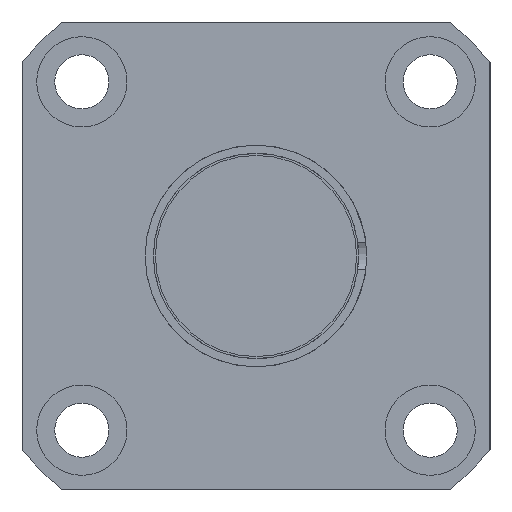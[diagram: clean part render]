
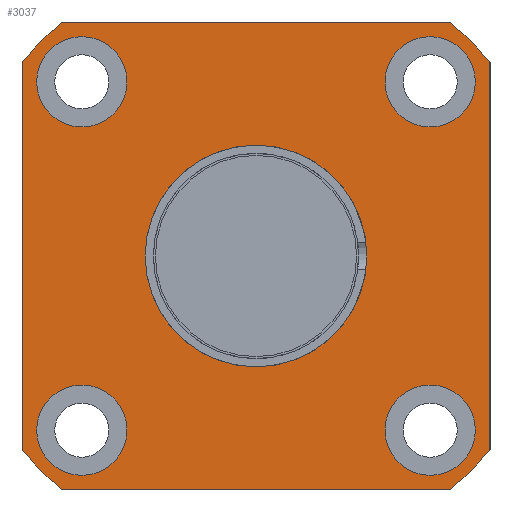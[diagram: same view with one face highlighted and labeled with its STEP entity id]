
A CAD part, left-side view. The second image highlights one B-rep face of the part: STEP entity #3037.
In plain terms, the highlighted planar face has unit normal (-1, 0, 0).
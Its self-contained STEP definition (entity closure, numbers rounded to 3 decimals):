
#510=CARTESIAN_POINT('',(519.302,-28.5,23.596));
#511=VERTEX_POINT('',#510);
#518=CARTESIAN_POINT('',(519.302,-28.5,-23.596));
#519=VERTEX_POINT('',#518);
#520=CARTESIAN_POINT('',(519.302,-28.5,23.596));
#521=DIRECTION('',(0.0,0.0,-1.0));
#522=VECTOR('',#521,47.191);
#523=LINE('',#520,#522);
#524=EDGE_CURVE('',#511,#519,#523,.T.);
#553=CARTESIAN_POINT('',(519.302,13.5,0.0));
#554=VERTEX_POINT('',#553);
#555=CARTESIAN_POINT('',(519.302,0.,0.0));
#556=DIRECTION('',(1.0,0.0,0.0));
#557=DIRECTION('',(0.0,1.0,0.0));
#558=AXIS2_PLACEMENT_3D('',#555,#556,#557);
#559=CIRCLE('',#558,13.5);
#560=EDGE_CURVE('',#554,#554,#559,.T.);
#691=CARTESIAN_POINT('',(519.302,26.713,-21.213));
#692=VERTEX_POINT('',#691);
#693=CARTESIAN_POINT('',(519.302,21.213,-21.213));
#694=DIRECTION('',(1.0,0.0,0.0));
#695=DIRECTION('',(0.0,1.0,0.0));
#696=AXIS2_PLACEMENT_3D('',#693,#694,#695);
#697=CIRCLE('',#696,5.5);
#698=EDGE_CURVE('',#692,#692,#697,.T.);
#759=CARTESIAN_POINT('',(519.302,-15.713,21.213));
#760=VERTEX_POINT('',#759);
#761=CARTESIAN_POINT('',(519.302,-21.213,21.213));
#762=DIRECTION('',(1.0,0.0,0.0));
#763=DIRECTION('',(0.0,1.0,0.0));
#764=AXIS2_PLACEMENT_3D('',#761,#762,#763);
#765=CIRCLE('',#764,5.5);
#766=EDGE_CURVE('',#760,#760,#765,.T.);
#827=CARTESIAN_POINT('',(519.302,26.713,21.213));
#828=VERTEX_POINT('',#827);
#829=CARTESIAN_POINT('',(519.302,21.213,21.213));
#830=DIRECTION('',(1.0,0.0,0.0));
#831=DIRECTION('',(0.0,1.0,0.0));
#832=AXIS2_PLACEMENT_3D('',#829,#830,#831);
#833=CIRCLE('',#832,5.5);
#834=EDGE_CURVE('',#828,#828,#833,.T.);
#895=CARTESIAN_POINT('',(519.302,-15.713,-21.213));
#896=VERTEX_POINT('',#895);
#897=CARTESIAN_POINT('',(519.302,-21.213,-21.213));
#898=DIRECTION('',(1.0,0.0,0.0));
#899=DIRECTION('',(0.0,1.0,0.0));
#900=AXIS2_PLACEMENT_3D('',#897,#898,#899);
#901=CIRCLE('',#900,5.5);
#902=EDGE_CURVE('',#896,#896,#901,.T.);
#2799=CARTESIAN_POINT('',(519.302,-23.596,-28.5));
#2800=VERTEX_POINT('',#2799);
#2801=CARTESIAN_POINT('',(519.302,0.,0.0));
#2802=DIRECTION('',(1.0,0.0,0.0));
#2803=DIRECTION('',(0.0,1.0,0.0));
#2804=AXIS2_PLACEMENT_3D('',#2801,#2802,#2803);
#2805=CIRCLE('',#2804,37.0);
#2806=EDGE_CURVE('',#519,#2800,#2805,.T.);
#2823=CARTESIAN_POINT('',(519.302,-23.596,28.5));
#2824=VERTEX_POINT('',#2823);
#2831=CARTESIAN_POINT('',(519.302,0.,0.0));
#2832=DIRECTION('',(1.0,0.0,0.0));
#2833=DIRECTION('',(0.0,1.0,0.0));
#2834=AXIS2_PLACEMENT_3D('',#2831,#2832,#2833);
#2835=CIRCLE('',#2834,37.0);
#2836=EDGE_CURVE('',#2824,#511,#2835,.T.);
#2848=CARTESIAN_POINT('',(519.302,23.596,28.5));
#2849=VERTEX_POINT('',#2848);
#2856=CARTESIAN_POINT('',(519.302,23.596,28.5));
#2857=DIRECTION('',(0.0,-1.0,0.0));
#2858=VECTOR('',#2857,47.191);
#2859=LINE('',#2856,#2858);
#2860=EDGE_CURVE('',#2849,#2824,#2859,.T.);
#2872=CARTESIAN_POINT('',(519.302,28.5,23.596));
#2873=VERTEX_POINT('',#2872);
#2880=CARTESIAN_POINT('',(519.302,0.,0.0));
#2881=DIRECTION('',(1.0,0.0,0.0));
#2882=DIRECTION('',(0.0,1.0,0.0));
#2883=AXIS2_PLACEMENT_3D('',#2880,#2881,#2882);
#2884=CIRCLE('',#2883,37.0);
#2885=EDGE_CURVE('',#2873,#2849,#2884,.T.);
#2897=CARTESIAN_POINT('',(519.302,28.5,-23.596));
#2898=VERTEX_POINT('',#2897);
#2905=CARTESIAN_POINT('',(519.302,28.5,-23.596));
#2906=DIRECTION('',(0.0,0.0,1.0));
#2907=VECTOR('',#2906,47.191);
#2908=LINE('',#2905,#2907);
#2909=EDGE_CURVE('',#2898,#2873,#2908,.T.);
#2921=CARTESIAN_POINT('',(519.302,23.596,-28.5));
#2922=VERTEX_POINT('',#2921);
#2929=CARTESIAN_POINT('',(519.302,0.,0.0));
#2930=DIRECTION('',(1.0,0.0,0.0));
#2931=DIRECTION('',(0.0,1.0,0.0));
#2932=AXIS2_PLACEMENT_3D('',#2929,#2930,#2931);
#2933=CIRCLE('',#2932,37.0);
#2934=EDGE_CURVE('',#2922,#2898,#2933,.T.);
#2947=CARTESIAN_POINT('',(519.302,-23.596,-28.5));
#2948=DIRECTION('',(0.0,1.0,0.0));
#2949=VECTOR('',#2948,47.191);
#2950=LINE('',#2947,#2949);
#2951=EDGE_CURVE('',#2800,#2922,#2950,.T.);
#3007=CARTESIAN_POINT('',(519.302,18.5,0.0));
#3008=DIRECTION('',(-1.0,0.0,0.0));
#3009=DIRECTION('',(0.0,0.0,1.0));
#3010=AXIS2_PLACEMENT_3D('',#3007,#3008,#3009);
#3011=PLANE('',#3010);
#3012=ORIENTED_EDGE('',*,*,#2860,.F.);
#3013=ORIENTED_EDGE('',*,*,#2885,.F.);
#3014=ORIENTED_EDGE('',*,*,#2909,.F.);
#3015=ORIENTED_EDGE('',*,*,#2934,.F.);
#3016=ORIENTED_EDGE('',*,*,#2951,.F.);
#3017=ORIENTED_EDGE('',*,*,#2806,.F.);
#3018=ORIENTED_EDGE('',*,*,#524,.F.);
#3019=ORIENTED_EDGE('',*,*,#2836,.F.);
#3020=EDGE_LOOP('',(#3012,#3013,#3014,#3015,#3016,#3017,#3018,#3019));
#3021=FACE_OUTER_BOUND('',#3020,.T.);
#3022=ORIENTED_EDGE('',*,*,#698,.T.);
#3023=EDGE_LOOP('',(#3022));
#3024=FACE_BOUND('',#3023,.T.);
#3025=ORIENTED_EDGE('',*,*,#766,.T.);
#3026=EDGE_LOOP('',(#3025));
#3027=FACE_BOUND('',#3026,.T.);
#3028=ORIENTED_EDGE('',*,*,#834,.T.);
#3029=EDGE_LOOP('',(#3028));
#3030=FACE_BOUND('',#3029,.T.);
#3031=ORIENTED_EDGE('',*,*,#902,.T.);
#3032=EDGE_LOOP('',(#3031));
#3033=FACE_BOUND('',#3032,.T.);
#3034=ORIENTED_EDGE('',*,*,#560,.T.);
#3035=EDGE_LOOP('',(#3034));
#3036=FACE_BOUND('',#3035,.T.);
#3037=ADVANCED_FACE('',(#3021,#3024,#3027,#3030,#3033,#3036),#3011,.T.);
